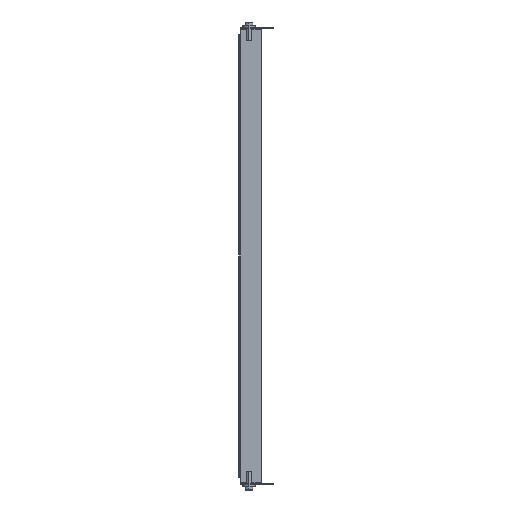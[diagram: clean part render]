
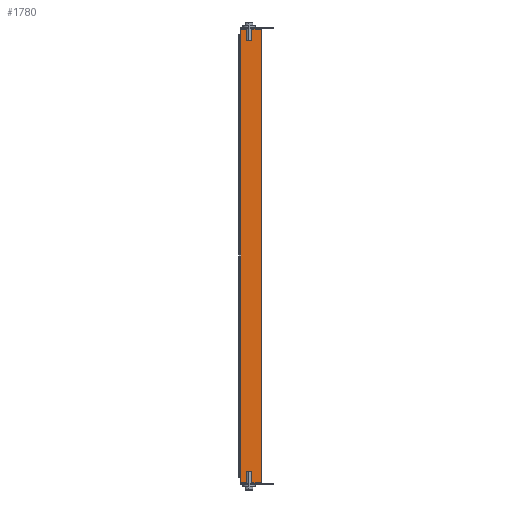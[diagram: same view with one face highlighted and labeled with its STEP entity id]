
A CAD part, left-side view. The second image highlights one B-rep face of the part: STEP entity #1780.
In plain terms, the highlighted planar face has unit normal (-1, 0, 0) as drawn and (0, 0, 1) by its records, which use the part's own axes.
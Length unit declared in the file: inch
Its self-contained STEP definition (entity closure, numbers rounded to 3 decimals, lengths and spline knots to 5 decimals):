
#337=DIRECTION('',(-1.,0.,0.));
#338=VECTOR('',#337,22.619);
#339=CARTESIAN_POINT('',(11.3095,-0.51106,0.));
#340=LINE('',#339,#338);
#349=DIRECTION('',(1.,0.,0.));
#350=VECTOR('',#349,0.2645);
#351=CARTESIAN_POINT('',(-11.3095,0.51106,0.));
#352=LINE('',#351,#350);
#367=DIRECTION('',(1.,0.,0.));
#368=VECTOR('',#367,22.09);
#369=CARTESIAN_POINT('',(-11.045,0.51106,0.));
#370=LINE('',#369,#368);
#461=DIRECTION('',(1.,0.,0.));
#462=VECTOR('',#461,0.2645);
#463=CARTESIAN_POINT('',(11.045,0.51106,0.));
#464=LINE('',#463,#462);
#483=DIRECTION('',(0.,-1.,0.));
#484=VECTOR('',#483,1.02211);
#485=CARTESIAN_POINT('',(11.3095,0.51106,0.));
#486=LINE('',#485,#484);
#931=DIRECTION('',(0.,1.,0.));
#932=VECTOR('',#931,1.02211);
#933=CARTESIAN_POINT('',(-11.3095,-0.51106,0.));
#934=LINE('',#933,#932);
#1093=CARTESIAN_POINT('',(-11.3095,0.51106,0.));
#1094=CARTESIAN_POINT('',(-11.045,0.51106,0.));
#1095=VERTEX_POINT('',#1093);
#1096=VERTEX_POINT('',#1094);
#1127=CARTESIAN_POINT('',(11.045,0.51106,0.));
#1128=VERTEX_POINT('',#1127);
#1227=CARTESIAN_POINT('',(11.3095,0.51106,0.));
#1228=VERTEX_POINT('',#1227);
#1291=CARTESIAN_POINT('',(11.3095,-0.51106,0.));
#1292=CARTESIAN_POINT('',(-11.3095,-0.51106,0.));
#1293=VERTEX_POINT('',#1291);
#1294=VERTEX_POINT('',#1292);
#1762=CARTESIAN_POINT('',(0.,0.,0.));
#1763=DIRECTION('',(0.,0.,1.));
#1764=DIRECTION('',(1.,0.,0.));
#1765=AXIS2_PLACEMENT_3D('',#1762,#1763,#1764);
#1766=PLANE('',#1765);
#1768=ORIENTED_EDGE('',*,*,#1767,.T.);
#1770=ORIENTED_EDGE('',*,*,#1769,.T.);
#1772=ORIENTED_EDGE('',*,*,#1771,.T.);
#1774=ORIENTED_EDGE('',*,*,#1773,.T.);
#1775=ORIENTED_EDGE('',*,*,#1752,.T.);
#1777=ORIENTED_EDGE('',*,*,#1776,.T.);
#1778=EDGE_LOOP('',(#1768,#1770,#1772,#1774,#1775,#1777));
#1779=FACE_OUTER_BOUND('',#1778,.F.);
#1752=EDGE_CURVE('',#1293,#1294,#340,.T.);
#1767=EDGE_CURVE('',#1095,#1096,#352,.T.);
#1769=EDGE_CURVE('',#1096,#1128,#370,.T.);
#1771=EDGE_CURVE('',#1128,#1228,#464,.T.);
#1773=EDGE_CURVE('',#1228,#1293,#486,.T.);
#1776=EDGE_CURVE('',#1294,#1095,#934,.T.);
#1780=ADVANCED_FACE('',(#1779),#1766,.T.);
